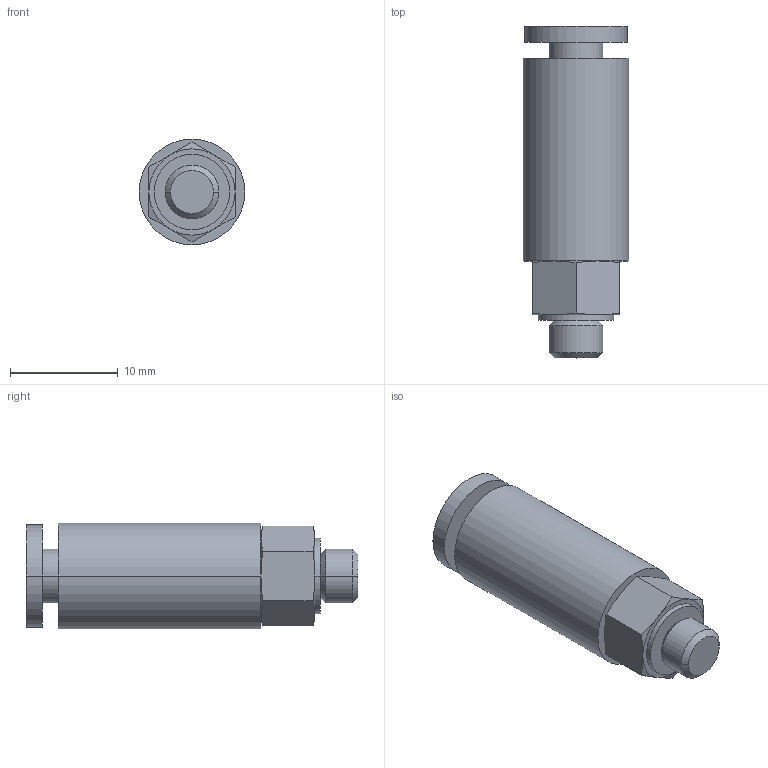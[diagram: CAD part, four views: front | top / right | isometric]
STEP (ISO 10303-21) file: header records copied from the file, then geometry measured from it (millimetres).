
FILE_DESCRIPTION( ( '' ), '1' );
FILE_NAME( 'G:/SMC狟婥/KCH04-M5.stp', '2023-03-08T05:59:19', ( '' ), ( '' ), ' ', ' ', ' ' );
FILE_SCHEMA( ( 'CONFIG_CONTROL_DESIGN' ) );
Length unit declared in the file: millimetre
Products named in the file (1): 1
Bounding box: 9.8 x 30.8 x 9.8 mm (x, y, z)
Volume: 1688.7 mm3; surface area: 1343 mm2
Topology: 1 solids, 1 shells, 42 faces, 86 edges, 52 vertices
Faces by surface type: cone 16, plane 14, cylinder 12
Entity records: 1122 total; most frequent: CARTESIAN_POINT 229, DIRECTION 188, ORIENTED_EDGE 172, EDGE_CURVE 86, AXIS2_PLACEMENT_3D 83, VERTEX_POINT 52, EDGE_LOOP 48, ADVANCED_FACE 42
